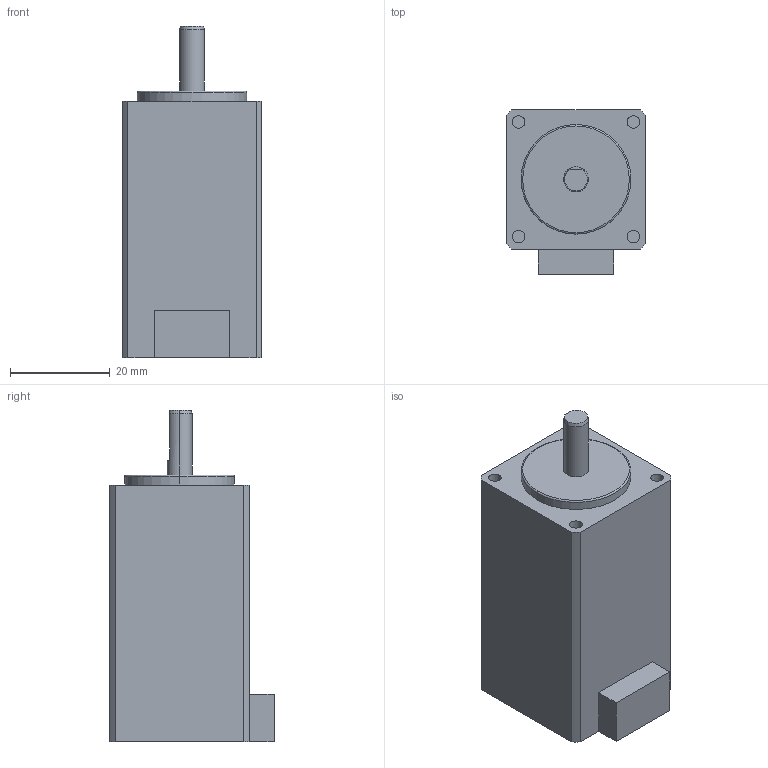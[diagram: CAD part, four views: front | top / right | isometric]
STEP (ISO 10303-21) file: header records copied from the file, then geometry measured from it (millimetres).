
FILE_DESCRIPTION (( 'STEP AP203' ), '1' );
FILE_NAME ('PMSB-U28DA3_3D.STEP', '2016-11-15T02:41:15', ( 'SKJ00869' ), ( '' ), 'SwSTEP 2.0', 'SolidWorks 2014', '' );
FILE_SCHEMA (( 'CONFIG_CONTROL_DESIGN' ));
Length unit declared in the file: millimetre
Products named in the file (1): PMSB-U28DA3_3D
Bounding box: 28 x 33 x 66.5 mm (x, y, z)
Volume: 41879.4 mm3; surface area: 8669.2 mm2
Topology: 2 solids, 2 shells, 40 faces, 89 edges, 58 vertices
Faces by surface type: plane 19, cylinder 16, cone 3, torus 2
Entity records: 1199 total; most frequent: DIRECTION 210, CARTESIAN_POINT 194, ORIENTED_EDGE 178, EDGE_CURVE 89, AXIS2_PLACEMENT_3D 82, VERTEX_POINT 58, LINE 46, VECTOR 46
